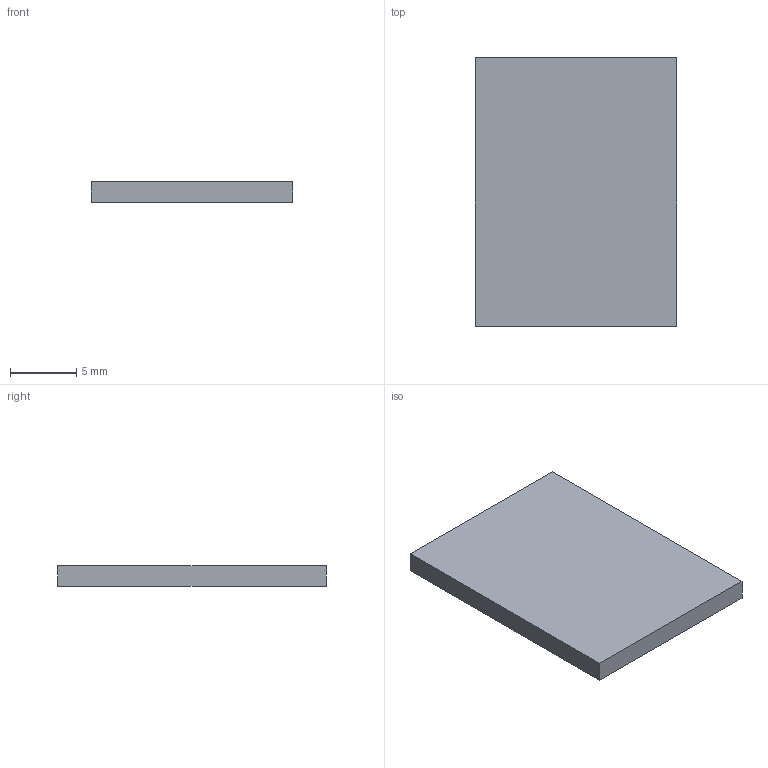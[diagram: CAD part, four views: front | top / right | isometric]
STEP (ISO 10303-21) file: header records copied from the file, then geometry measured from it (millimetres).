
FILE_DESCRIPTION(('Open CASCADE Model'),'2;1');
FILE_NAME('Open CASCADE Shape Model','2026-10-06T03:35:42',('Author'),( 'Open CASCADE'),'Open CASCADE STEP processor 7.8','Open CASCADE 7.8' ,'Unknown');
FILE_SCHEMA(('AUTOMOTIVE_DESIGN { 1 0 10303 214 1 1 1 1 }'));
Length unit declared in the file: millimetre
Products named in the file (1): Open CASCADE STEP translator 7.8 21
Bounding box: 15.2 x 20.3 x 1.57 mm (x, y, z)
Volume: 484.4 mm3; surface area: 728.6 mm2
Topology: 1 solids, 1 shells, 6 faces, 12 edges, 8 vertices
Faces by surface type: plane 6
Entity records: 322 total; most frequent: CARTESIAN_POINT 51, DIRECTION 50, LINE 36, VECTOR 36, ORIENTED_EDGE 24, PCURVE 24, DEFINITIONAL_REPRESENTATION 24, EDGE_CURVE 12
